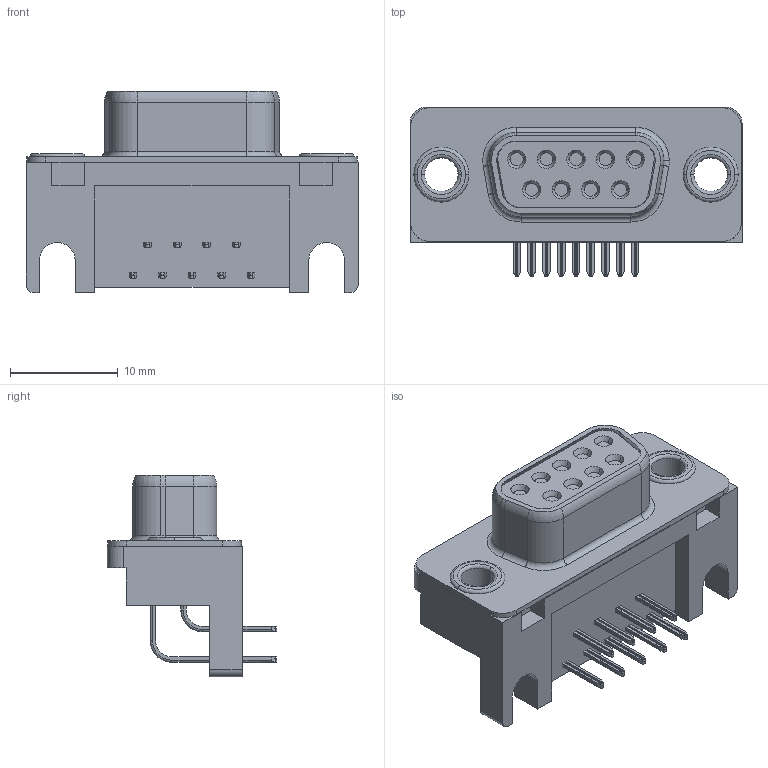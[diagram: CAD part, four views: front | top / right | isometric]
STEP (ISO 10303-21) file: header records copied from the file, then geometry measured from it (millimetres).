
FILE_DESCRIPTION (( 'STEP AP203' ), '1' );
FILE_NAME ('17LE-13090-27-FA.STEP', '2022-01-24T09:41:45', ( '' ), ( '' ), 'SwSTEP 2.0', 'SolidWorks 2018', '' );
FILE_SCHEMA (( 'CONFIG_CONTROL_DESIGN' ));
Length unit declared in the file: millimetre
Products named in the file (1): 17LE-13090-27-FA
Bounding box: 30.8 x 15.7 x 18.67 mm (x, y, z)
Volume: 2859.9 mm3; surface area: 3155.6 mm2
Topology: 1 solids, 3 shells, 614 faces, 1598 edges, 1013 vertices
Faces by surface type: plane 286, cylinder 223, torus 82, cone 23
Entity records: 19142 total; most frequent: CARTESIAN_POINT 3604, DIRECTION 3353, ORIENTED_EDGE 3196, EDGE_CURVE 1598, AXIS2_PLACEMENT_3D 1194, VERTEX_POINT 1013, LINE 965, VECTOR 965
